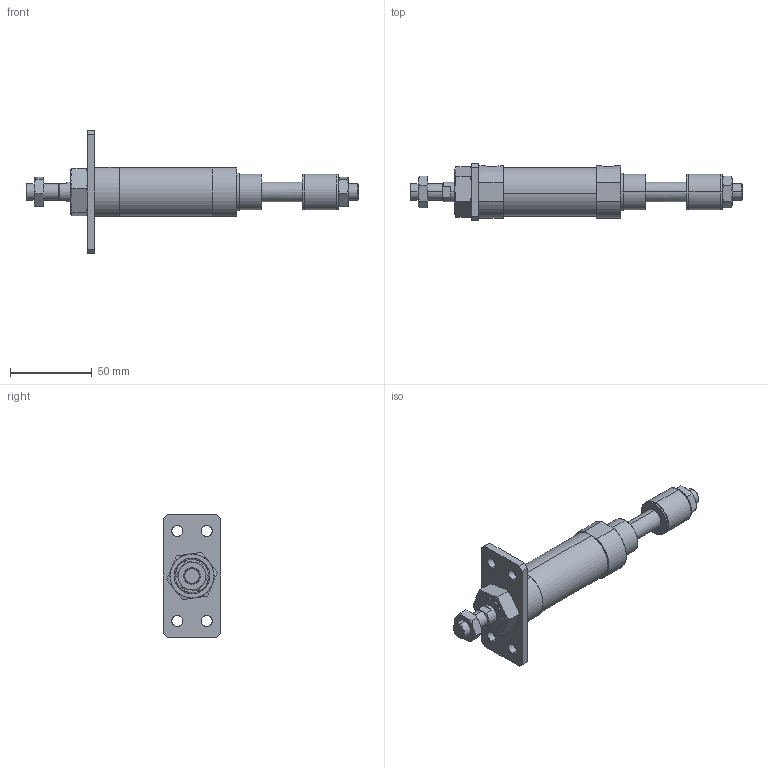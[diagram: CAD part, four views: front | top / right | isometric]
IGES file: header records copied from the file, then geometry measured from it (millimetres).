
Start section: SolidWorks IGES file using analytic representation for surfaces
Global section: file name: C:\Users\Toshiba\Desktop\JGA7-25-25-A.IGS; native system: SolidWorks 2014; preprocessor: SolidWorks 2014; author: Toshiba; date: 160420.092120; units: millimetre
Bounding box: 203 x 35 x 75 mm (x, y, z)
Surface area: 31670.5 mm2 (no closed solid volume)
Topology: 0 solids, 0 shells, 169 faces, 3092 edges, 3088 vertices
Faces by surface type: bspline 105, revolution 64
